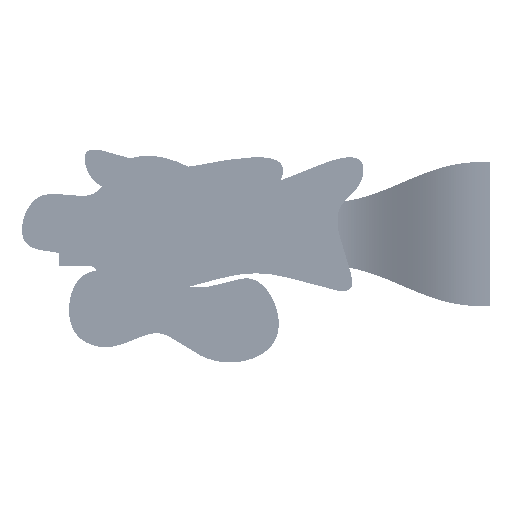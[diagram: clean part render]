
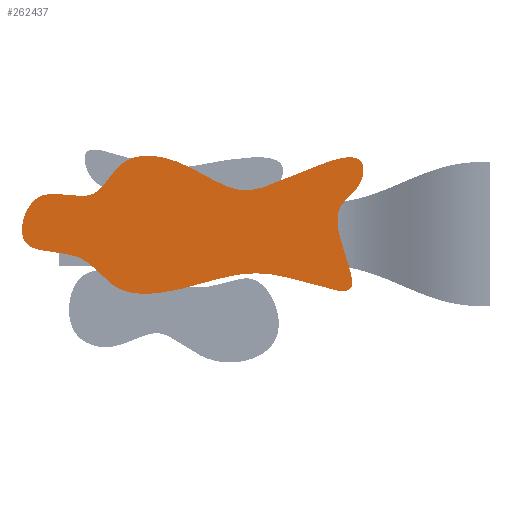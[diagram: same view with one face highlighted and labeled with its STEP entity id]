
A CAD part, front view. The second image highlights one B-rep face of the part: STEP entity #262437.
In plain terms, the highlighted planar face has unit normal (0, -1, 0).
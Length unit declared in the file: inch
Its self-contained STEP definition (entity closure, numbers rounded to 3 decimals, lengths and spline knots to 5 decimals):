
#9928 = CARTESIAN_POINT ( 'NONE',  ( 84.31953, -80.875, -45.64726 ) ) ;
#11264 = CARTESIAN_POINT ( 'NONE',  ( 127.59659, -80.875, 70.75354 ) ) ;
#27099 = CARTESIAN_POINT ( 'NONE',  ( -77.21005, -80.875, 91.90535 ) ) ;
#33136 = PLANE ( 'NONE',  #62617 ) ;
#41287 = CARTESIAN_POINT ( 'NONE',  ( 92.96746, -80.875, -45.65745 ) ) ;
#42635 = CARTESIAN_POINT ( 'NONE',  ( 11.10495, -80.875, 80.93494 ) ) ;
#45295 = CARTESIAN_POINT ( 'NONE',  ( -21.68505, -80.875, 88.96483 ) ) ;
#58543 = CARTESIAN_POINT ( 'NONE',  ( -175.35353, -80.875, 66.05585 ) ) ;
#62617 = AXIS2_PLACEMENT_3D ( 'NONE', #315151, #127530, #346477 ) ;
#90043 = CARTESIAN_POINT ( 'NONE',  ( -117.73482, -80.875, -13.33963 ) ) ;
#90493 = VERTEX_POINT ( 'NONE', #235189 ) ;
#121438 = CARTESIAN_POINT ( 'NONE',  ( 12.78371, -80.875, -60.76713 ) ) ;
#127530 = DIRECTION ( 'NONE',  ( 0., 1., 0. ) ) ;
#135737 = CARTESIAN_POINT ( 'NONE',  ( 132.24458, -80.875, -49.38609 ) ) ;
#151695 = CARTESIAN_POINT ( 'NONE',  ( -39.33578, -80.875, 93.28729 ) ) ;
#153032 = CARTESIAN_POINT ( 'NONE',  ( 84.31953, -80.875, -45.64726 ) ) ;
#167268 = CARTESIAN_POINT ( 'NONE',  ( 155.09961, -80.875, 25.47876 ) ) ;
#181138 = ORIENTED_EDGE ( 'NONE', *, *, #402442, .T. ) ;
#198861 = CARTESIAN_POINT ( 'NONE',  ( 213.62067, -80.875, 102.30235 ) ) ;
#230315 = CARTESIAN_POINT ( 'NONE',  ( 61.39774, -80.875, 34.23521 ) ) ;
#235189 = CARTESIAN_POINT ( 'NONE',  ( 84.31953, -80.875, -45.64726 ) ) ;
#246178 = CARTESIAN_POINT ( 'NONE',  ( -102.36868, -80.875, 27.35083 ) ) ;
#256296 = B_SPLINE_CURVE_WITH_KNOTS ( 'NONE', 3,
 ( #370492, #151695, #27099, #246178, #58543, #277658, #90043, #309062, #121438, #340440, #153032 ),
 .UNSPECIFIED., .F., .F.,
 ( 4, 1, 1, 1, 1, 1, 1, 1, 4 ),
 ( 0., 0.05037, 0.09917, 0.16342, 0.21439, 0.28132, 0.33257, 0.4321, 0.5 ),
 .UNSPECIFIED. ) ;
#261727 = CARTESIAN_POINT ( 'NONE',  ( -21.68505, -80.875, 88.96483 ) ) ;
#262437 = ADVANCED_FACE ( 'NONE', ( #284138 ), #33136, .F. ) ;
#277658 = CARTESIAN_POINT ( 'NONE',  ( -202.66466, -80.875, -28.74433 ) ) ;
#284138 = FACE_OUTER_BOUND ( 'NONE', #401479, .T. ) ;
#294685 = B_SPLINE_CURVE_WITH_KNOTS ( 'NONE', 3,
 ( #9928, #41287, #135737, #354629, #167268, #386118, #198861, #11264, #230315, #42635, #261727 ),
 .UNSPECIFIED., .F., .F.,
 ( 4, 1, 1, 1, 1, 1, 1, 1, 4 ),
 ( 0.5, 0.52532, 0.60874, 0.70146, 0.7414, 0.76001, 0.82776, 0.90643, 1. ),
 .UNSPECIFIED. ) ;
#295958 = VERTEX_POINT ( 'NONE', #45295 ) ;
#309062 = CARTESIAN_POINT ( 'NONE',  ( -76.12184, -80.875, -82.73651 ) ) ;
#312128 = EDGE_CURVE ( 'NONE', #295958, #90493, #256296, .T. ) ;
#315151 = CARTESIAN_POINT ( 'NONE',  ( 84.31953, -80.875, -45.64726 ) ) ;
#340440 = CARTESIAN_POINT ( 'NONE',  ( 61.12948, -80.875, -45.61995 ) ) ;
#346477 = DIRECTION ( 'NONE',  ( -1., 0., 0. ) ) ;
#354629 = CARTESIAN_POINT ( 'NONE',  ( 234.13292, -80.875, -96.05537 ) ) ;
#370492 = CARTESIAN_POINT ( 'NONE',  ( -21.68505, -80.875, 88.96483 ) ) ;
#382890 = ORIENTED_EDGE ( 'NONE', *, *, #312128, .T. ) ;
#386118 = CARTESIAN_POINT ( 'NONE',  ( 207.53224, -80.875, 51.77682 ) ) ;
#401479 = EDGE_LOOP ( 'NONE', ( #382890, #181138 ) ) ;
#402442 = EDGE_CURVE ( 'NONE', #90493, #295958, #294685, .T. ) ;
